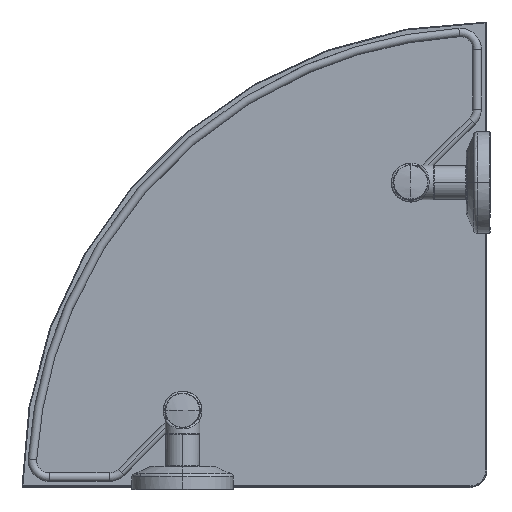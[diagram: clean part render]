
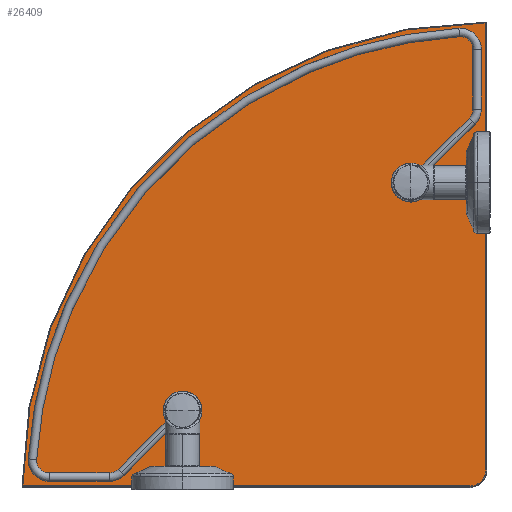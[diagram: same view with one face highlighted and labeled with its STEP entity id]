
A CAD part, top view. The second image highlights one B-rep face of the part: STEP entity #26409.
In plain terms, the highlighted planar face has unit normal (0, 0, 1).
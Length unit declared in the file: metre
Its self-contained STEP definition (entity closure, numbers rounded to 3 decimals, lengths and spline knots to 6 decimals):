
#26130=VERTEX_POINT('',#26131);
#26131=CARTESIAN_POINT('',(0.141,0.1679,-0.0631));
#26137=EDGE_CURVE('',#26138,#26130,#26140,.T.);
#26138=VERTEX_POINT('',#26139);
#26139=CARTESIAN_POINT('',(0.129,0.1679,-0.0631));
#26140=CIRCLE('',#26141,0.006);
#26141=AXIS2_PLACEMENT_3D('',#26142,#26143,#26144);
#26142=CARTESIAN_POINT('',(0.135,0.1679,-0.0631));
#26143=DIRECTION('',(0.0,0.0,-1.0));
#26144=DIRECTION('',(-1.0,0.0,0.0));
#26172=VERTEX_POINT('',#26173);
#26173=CARTESIAN_POINT('',(0.006,0.0329,-0.0631));
#26179=EDGE_CURVE('',#26180,#26172,#26182,.T.);
#26180=VERTEX_POINT('',#26181);
#26181=CARTESIAN_POINT('',(-0.006,0.0329,-0.0631));
#26182=CIRCLE('',#26183,0.006);
#26183=AXIS2_PLACEMENT_3D('',#26184,#26185,#26186);
#26184=CARTESIAN_POINT('',(0.0,0.0329,-0.0631));
#26185=DIRECTION('',(0.0,0.0,-1.0));
#26186=DIRECTION('',(-1.0,0.0,0.0));
#26310=CARTESIAN_POINT('',(0.006,0.0329,-0.0631));
#26311=EDGE_CURVE('',#26172,#26180,#26312,.T.);
#26312=(B_SPLINE_CURVE(3,(#26310,#26313,#26314,#26315),.UNSPECIFIED.,.F.,
  .U.)B_SPLINE_CURVE_WITH_KNOTS((4,4),(0.0,1.0),.UNSPECIFIED.)BOUNDED_CURVE(
  )CURVE()GEOMETRIC_REPRESENTATION_ITEM()RATIONAL_B_SPLINE_CURVE((1.0,
  0.333,0.333,1.0))REPRESENTATION_ITEM(''));
#26313=CARTESIAN_POINT('',(0.006,0.0209,-0.0631));
#26314=CARTESIAN_POINT('',(-0.006,0.0209,-0.0631));
#26315=CARTESIAN_POINT('',(-0.006,0.0329,-0.0631));
#26329=CARTESIAN_POINT('',(0.141,0.1679,-0.0631));
#26330=EDGE_CURVE('',#26130,#26138,#26331,.T.);
#26331=(B_SPLINE_CURVE(3,(#26329,#26332,#26333,#26334),.UNSPECIFIED.,.F.,
  .U.)B_SPLINE_CURVE_WITH_KNOTS((4,4),(0.0,1.0),.UNSPECIFIED.)BOUNDED_CURVE(
  )CURVE()GEOMETRIC_REPRESENTATION_ITEM()RATIONAL_B_SPLINE_CURVE((1.0,
  0.333,0.333,1.0))REPRESENTATION_ITEM(''));
#26332=CARTESIAN_POINT('',(0.141,0.1559,-0.0631));
#26333=CARTESIAN_POINT('',(0.129,0.1559,-0.0631));
#26334=CARTESIAN_POINT('',(0.129,0.1679,-0.0631));
#26409=ADVANCED_FACE('',(#26415,#26451,#26455),#26410,.F.);
#26410=PLANE('',#26411);
#26411=AXIS2_PLACEMENT_3D('',#26412,#26413,#26414);
#26412=CARTESIAN_POINT('',(0.18,-0.0121,-0.0631));
#26413=DIRECTION('',(0.0,0.0,-1.0));
#26414=DIRECTION('',(0.0,-1.0,0.0));
#26415=FACE_OUTER_BOUND('',#26416,.T.);
#26416=EDGE_LOOP('',(#26417,#26428,#26436,#26445));
#26417=ORIENTED_EDGE('',*,*,#26418,.T.);
#26418=EDGE_CURVE('',#26419,#26421,#26423,.F.);
#26419=VERTEX_POINT('',#26420);
#26420=CARTESIAN_POINT('',(0.1795,0.2624,-0.0631));
#26421=VERTEX_POINT('',#26422);
#26422=CARTESIAN_POINT('',(-0.0945,-0.0116,-0.0631));
#26423=CIRCLE('',#26424,0.2745);
#26424=AXIS2_PLACEMENT_3D('',#26425,#26426,#26427);
#26425=CARTESIAN_POINT('',(0.18,-0.0121,-0.0631));
#26426=DIRECTION('',(0.0,0.0,-1.0));
#26427=DIRECTION('',(-1.0,0.0,0.0));
#26428=ORIENTED_EDGE('',*,*,#26429,.T.);
#26429=EDGE_CURVE('',#26421,#26430,#26432,.T.);
#26430=VERTEX_POINT('',#26431);
#26431=CARTESIAN_POINT('',(0.17,-0.0116,-0.0631));
#26432=LINE('',#26433,#26434);
#26433=CARTESIAN_POINT('',(0.18,-0.0116,-0.0631));
#26434=VECTOR('',#26435,1.0);
#26435=DIRECTION('',(1.0,0.,0.0));
#26436=ORIENTED_EDGE('',*,*,#26437,.T.);
#26437=EDGE_CURVE('',#26430,#26438,#26440,.F.);
#26438=VERTEX_POINT('',#26439);
#26439=CARTESIAN_POINT('',(0.1795,-0.0021,-0.0631));
#26440=CIRCLE('',#26441,0.0095);
#26441=AXIS2_PLACEMENT_3D('',#26442,#26443,#26444);
#26442=CARTESIAN_POINT('',(0.17,-0.0021,-0.0631));
#26443=DIRECTION('',(0.0,0.0,-1.0));
#26444=DIRECTION('',(-1.0,0.0,0.0));
#26445=ORIENTED_EDGE('',*,*,#26446,.T.);
#26446=EDGE_CURVE('',#26438,#26419,#26447,.T.);
#26447=LINE('',#26448,#26449);
#26448=CARTESIAN_POINT('',(0.1795,-0.0121,-0.0631));
#26449=VECTOR('',#26450,1.0);
#26450=DIRECTION('',(0.0,1.0,0.0));
#26451=FACE_BOUND('',#26452,.T.);
#26452=EDGE_LOOP('',(#26453,#26454));
#26453=ORIENTED_EDGE('',*,*,#26137,.T.);
#26454=ORIENTED_EDGE('',*,*,#26330,.T.);
#26455=FACE_BOUND('',#26456,.T.);
#26456=EDGE_LOOP('',(#26457,#26458));
#26457=ORIENTED_EDGE('',*,*,#26179,.T.);
#26458=ORIENTED_EDGE('',*,*,#26311,.T.);
